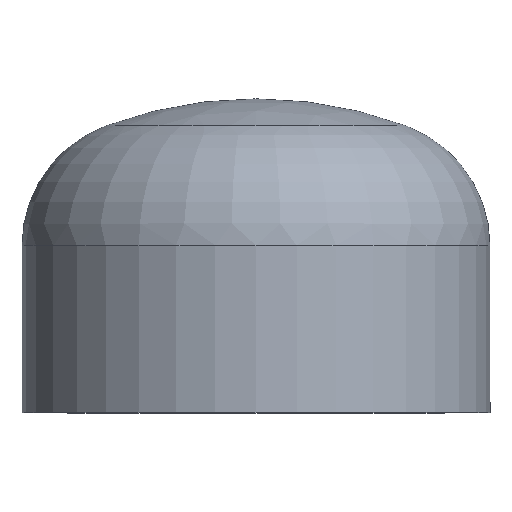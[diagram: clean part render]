
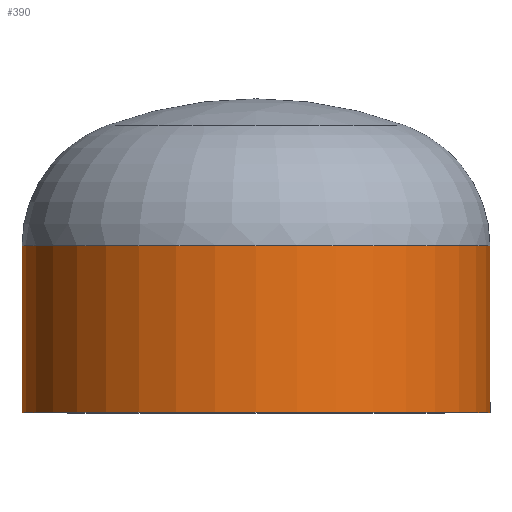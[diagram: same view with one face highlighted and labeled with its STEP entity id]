
A CAD part, top view. The second image highlights one B-rep face of the part: STEP entity #390.
In plain terms, the highlighted cylindrical face has radius 84.15 mm (diameter 168.3 mm), a partial arc.
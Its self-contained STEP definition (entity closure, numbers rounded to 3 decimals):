
#2 = EDGE_LOOP ( 'NONE', ( #85, #6, #267, #52 ) ) ;
#6 = ORIENTED_EDGE ( 'NONE', *, *, #359, .T. ) ;
#13 = FACE_OUTER_BOUND ( 'NONE', #2, .T. ) ;
#30 = CIRCLE ( 'NONE', #139, 84.15 ) ;
#34 = CARTESIAN_POINT ( 'NONE',  ( 0., 0., 0. ) ) ;
#44 = VERTEX_POINT ( 'NONE', #174 ) ;
#52 = ORIENTED_EDGE ( 'NONE', *, *, #352, .F. ) ;
#53 = AXIS2_PLACEMENT_3D ( 'NONE', #216, #211, #210 ) ;
#60 = VERTEX_POINT ( 'NONE', #288 ) ;
#74 = DIRECTION ( 'NONE',  ( 0., -1., 0. ) ) ;
#84 = DIRECTION ( 'NONE',  ( 1., 0., 0. ) ) ;
#85 = ORIENTED_EDGE ( 'NONE', *, *, #143, .T. ) ;
#86 = VERTEX_POINT ( 'NONE', #385 ) ;
#115 = VERTEX_POINT ( 'NONE', #222 ) ;
#139 = AXIS2_PLACEMENT_3D ( 'NONE', #323, #339, #340 ) ;
#143 = EDGE_CURVE ( 'NONE', #44, #60, #30, .T. ) ;
#174 = CARTESIAN_POINT ( 'NONE',  ( 84.15, 60., 0. ) ) ;
#207 = CIRCLE ( 'NONE', #53, 84.15 ) ;
#208 = DIRECTION ( 'NONE',  ( 0., -1., 0. ) ) ;
#209 = AXIS2_PLACEMENT_3D ( 'NONE', #34, #74, #84 ) ;
#210 = DIRECTION ( 'NONE',  ( 1., 0., 0. ) ) ;
#211 = DIRECTION ( 'NONE',  ( 0., -1., 0. ) ) ;
#216 = CARTESIAN_POINT ( 'NONE',  ( 0., 0., 0. ) ) ;
#222 = CARTESIAN_POINT ( 'NONE',  ( -84.15, 0., 0. ) ) ;
#227 = CARTESIAN_POINT ( 'NONE',  ( -84.15, 0., 0. ) ) ;
#229 = DIRECTION ( 'NONE',  ( 0., -1., 0. ) ) ;
#264 = VECTOR ( 'NONE', #208, 1000. ) ;
#267 = ORIENTED_EDGE ( 'NONE', *, *, #357, .F. ) ;
#288 = CARTESIAN_POINT ( 'NONE',  ( -84.15, 60., 0. ) ) ;
#297 = CYLINDRICAL_SURFACE ( 'NONE', #209, 84.15 ) ;
#302 = CARTESIAN_POINT ( 'NONE',  ( 84.15, 0., 0. ) ) ;
#317 = LINE ( 'NONE', #302, #264 ) ;
#323 = CARTESIAN_POINT ( 'NONE',  ( 0., 60., 0. ) ) ;
#329 = LINE ( 'NONE', #227, #366 ) ;
#339 = DIRECTION ( 'NONE',  ( 0., -1., 0. ) ) ;
#340 = DIRECTION ( 'NONE',  ( 1., 0., 0. ) ) ;
#352 = EDGE_CURVE ( 'NONE', #44, #86, #317, .T. ) ;
#357 = EDGE_CURVE ( 'NONE', #86, #115, #207, .T. ) ;
#359 = EDGE_CURVE ( 'NONE', #60, #115, #329, .T. ) ;
#366 = VECTOR ( 'NONE', #229, 1000. ) ;
#385 = CARTESIAN_POINT ( 'NONE',  ( 84.15, 0., 0. ) ) ;
#390 = ADVANCED_FACE ( 'NONE', ( #13 ), #297, .T. ) ;
